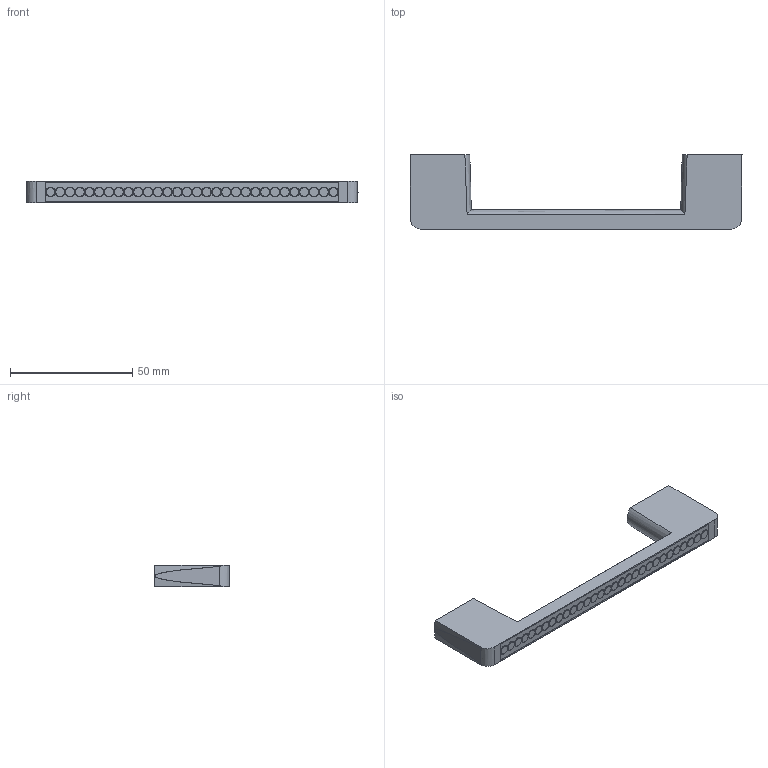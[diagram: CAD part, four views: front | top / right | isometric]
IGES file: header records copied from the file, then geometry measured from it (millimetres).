
Start section: Data from Parasolid IGES Translator 15.0.47, Copyright(c) 2006 Siemens P LM Software. All Rights Reserved.
Global section: file name: 9113674.igs; native system:  By UGS Corp.; preprocessor: XPlus GENERIC/IGES 3.0; author: Noname; organization: Noname; date: 20140122.170612; units: millimetre
Bounding box: 136 x 30.4 x 9 mm (x, y, z)
Surface area: 8629.3 mm2 (no closed solid volume)
Topology: 0 solids, 0 shells, 305 faces, 3020 edges, 2894 vertices
Faces by surface type: extrusion 171, revolution 134
